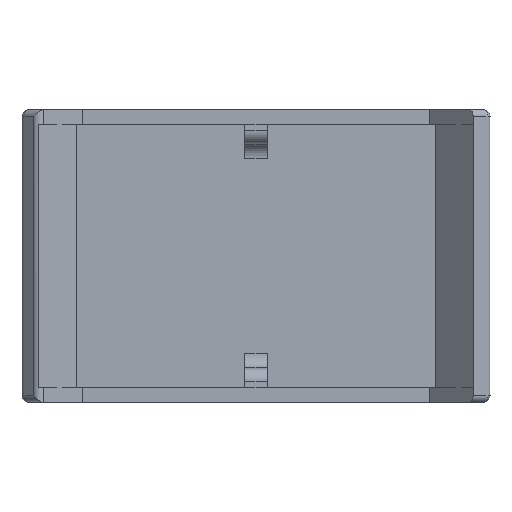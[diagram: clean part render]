
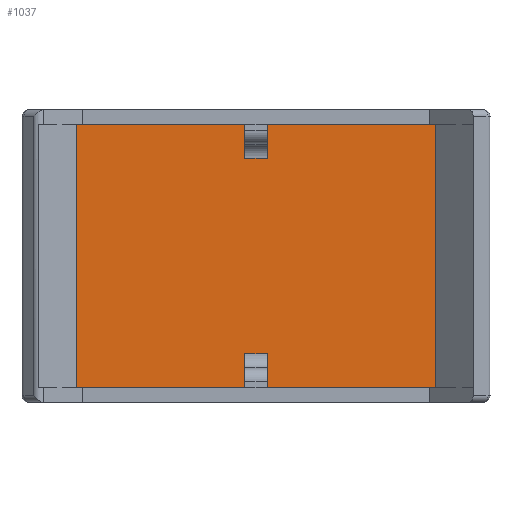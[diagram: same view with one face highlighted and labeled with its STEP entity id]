
A CAD part, front view. The second image highlights one B-rep face of the part: STEP entity #1037.
In plain terms, the highlighted planar face has unit normal (0, -1, 0).
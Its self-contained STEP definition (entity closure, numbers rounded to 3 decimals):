
#96=PLANE('',#1153);
#161=FACE_OUTER_BOUND('',#220,.T.);
#220=EDGE_LOOP('',(#864,#865,#866,#867,#868,#869,#870,#871,#872,#873,#874,
#875));
#323=LINE('',#1686,#424);
#329=LINE('',#1699,#430);
#335=LINE('',#1710,#436);
#336=LINE('',#1714,#437);
#337=LINE('',#1716,#438);
#338=LINE('',#1718,#439);
#339=LINE('',#1720,#440);
#340=LINE('',#1722,#441);
#341=LINE('',#1724,#442);
#342=LINE('',#1726,#443);
#343=LINE('',#1728,#444);
#344=LINE('',#1729,#445);
#424=VECTOR('',#1374,10.);
#430=VECTOR('',#1386,10.);
#436=VECTOR('',#1396,10.);
#437=VECTOR('',#1401,1000.);
#438=VECTOR('',#1402,10.);
#439=VECTOR('',#1403,1000.);
#440=VECTOR('',#1404,10.);
#441=VECTOR('',#1405,10.);
#442=VECTOR('',#1406,10.);
#443=VECTOR('',#1407,1000.);
#444=VECTOR('',#1408,10.);
#445=VECTOR('',#1409,1000.);
#529=VERTEX_POINT('',#1683);
#530=VERTEX_POINT('',#1685);
#534=VERTEX_POINT('',#1697);
#537=VERTEX_POINT('',#1708);
#538=VERTEX_POINT('',#1713);
#539=VERTEX_POINT('',#1715);
#540=VERTEX_POINT('',#1717);
#541=VERTEX_POINT('',#1719);
#542=VERTEX_POINT('',#1721);
#543=VERTEX_POINT('',#1723);
#544=VERTEX_POINT('',#1725);
#545=VERTEX_POINT('',#1727);
#642=EDGE_CURVE('',#530,#529,#323,.T.);
#649=EDGE_CURVE('',#534,#529,#329,.T.);
#655=EDGE_CURVE('',#534,#537,#335,.T.);
#656=EDGE_CURVE('',#537,#538,#336,.T.);
#657=EDGE_CURVE('',#539,#538,#337,.F.);
#658=EDGE_CURVE('',#540,#539,#338,.T.);
#659=EDGE_CURVE('',#540,#541,#339,.T.);
#660=EDGE_CURVE('',#542,#541,#340,.T.);
#661=EDGE_CURVE('',#542,#543,#341,.T.);
#662=EDGE_CURVE('',#544,#543,#342,.T.);
#663=EDGE_CURVE('',#544,#545,#343,.T.);
#664=EDGE_CURVE('',#545,#530,#344,.T.);
#864=ORIENTED_EDGE('',*,*,#655,.T.);
#865=ORIENTED_EDGE('',*,*,#656,.T.);
#866=ORIENTED_EDGE('',*,*,#657,.F.);
#867=ORIENTED_EDGE('',*,*,#658,.F.);
#868=ORIENTED_EDGE('',*,*,#659,.T.);
#869=ORIENTED_EDGE('',*,*,#660,.F.);
#870=ORIENTED_EDGE('',*,*,#661,.T.);
#871=ORIENTED_EDGE('',*,*,#662,.F.);
#872=ORIENTED_EDGE('',*,*,#663,.T.);
#873=ORIENTED_EDGE('',*,*,#664,.T.);
#874=ORIENTED_EDGE('',*,*,#642,.T.);
#875=ORIENTED_EDGE('',*,*,#649,.F.);
#1037=ADVANCED_FACE('',(#161),#96,.T.);
#1153=AXIS2_PLACEMENT_3D('',#1712,#1399,#1400);
#1374=DIRECTION('',(0.,0.,-1.));
#1386=DIRECTION('',(1.,0.,0.));
#1396=DIRECTION('',(0.,0.,1.));
#1399=DIRECTION('center_axis',(0.,-1.,0.));
#1400=DIRECTION('ref_axis',(0.,0.,-1.));
#1401=DIRECTION('',(-1.,0.,0.));
#1402=DIRECTION('',(0.,0.,-1.));
#1403=DIRECTION('',(-1.,0.,0.));
#1404=DIRECTION('',(0.,0.,1.));
#1405=DIRECTION('',(-1.,0.,0.));
#1406=DIRECTION('',(0.,0.,-1.));
#1407=DIRECTION('',(-1.,0.,0.));
#1408=DIRECTION('',(0.,0.,1.));
#1409=DIRECTION('',(-1.,0.,0.));
#1683=CARTESIAN_POINT('',(1.6,8.364,14.1));
#1685=CARTESIAN_POINT('',(1.6,8.364,18.9));
#1686=CARTESIAN_POINT('',(1.6,8.364,18.2));
#1697=CARTESIAN_POINT('',(-1.6,8.364,14.1));
#1699=CARTESIAN_POINT('',(11.163,8.364,14.1));
#1708=CARTESIAN_POINT('',(-1.6,8.364,18.9));
#1710=CARTESIAN_POINT('',(-1.6,8.364,18.2));
#1712=CARTESIAN_POINT('Origin',(22.326,8.364,18.9));
#1713=CARTESIAN_POINT('',(-25.831,8.364,18.9));
#1714=CARTESIAN_POINT('',(22.326,8.364,18.9));
#1715=CARTESIAN_POINT('',(-25.831,8.364,-18.9));
#1716=CARTESIAN_POINT('',(-25.831,8.364,18.9));
#1717=CARTESIAN_POINT('',(-1.6,8.364,-18.9));
#1718=CARTESIAN_POINT('',(22.326,8.364,-18.9));
#1719=CARTESIAN_POINT('',(-1.6,8.364,-14.1));
#1720=CARTESIAN_POINT('',(-1.6,8.364,0.7));
#1721=CARTESIAN_POINT('',(1.6,8.364,-14.1));
#1722=CARTESIAN_POINT('',(11.163,8.364,-14.1));
#1723=CARTESIAN_POINT('',(1.6,8.364,-18.9));
#1724=CARTESIAN_POINT('',(1.6,8.364,0.7));
#1725=CARTESIAN_POINT('',(25.831,8.364,-18.9));
#1726=CARTESIAN_POINT('',(22.326,8.364,-18.9));
#1727=CARTESIAN_POINT('',(25.831,8.364,18.9));
#1728=CARTESIAN_POINT('',(25.831,8.364,18.9));
#1729=CARTESIAN_POINT('',(22.326,8.364,18.9));
